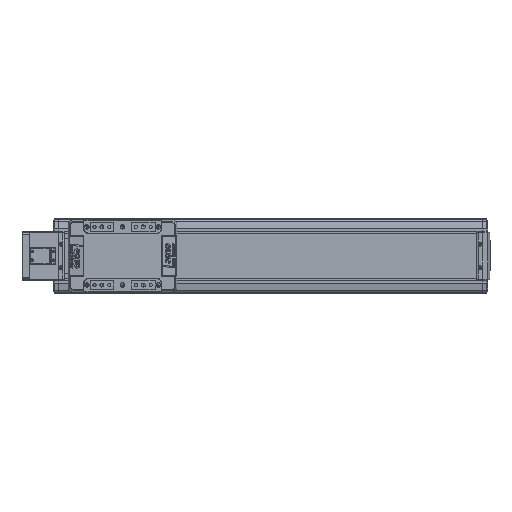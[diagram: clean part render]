
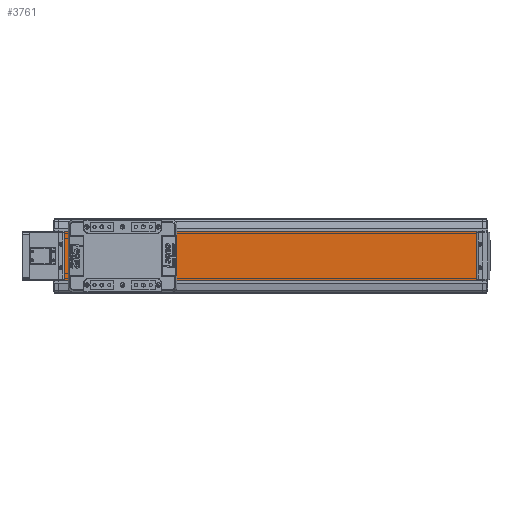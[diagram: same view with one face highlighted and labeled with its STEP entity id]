
A CAD part, top view. The second image highlights one B-rep face of the part: STEP entity #3761.
In plain terms, the highlighted planar face has unit normal (0, 0, 1).
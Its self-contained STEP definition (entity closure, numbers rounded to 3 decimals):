
#3761=ADVANCED_FACE('',(#9999),#10000,.F.);
#9999=FACE_OUTER_BOUND('',#19779,.T.);
#10000=PLANE('',#19780);
#19779=EDGE_LOOP('',(#31117,#31118,#31119,#31120));
#19780=AXIS2_PLACEMENT_3D('',#31121,#31122,#31123);
#31117=ORIENTED_EDGE('',*,*,#57344,.F.);
#31118=ORIENTED_EDGE('',*,*,#57345,.F.);
#31119=ORIENTED_EDGE('',*,*,#57346,.F.);
#31120=ORIENTED_EDGE('',*,*,#57347,.T.);
#31121=CARTESIAN_POINT('',(0.,0.,26.));
#31122=DIRECTION('',(0.,0.,-1.0));
#31123=DIRECTION('',(0.,1.0,0.));
#57344=EDGE_CURVE('',#68210,#68211,#68212,.T.);
#57345=EDGE_CURVE('',#68213,#68210,#68214,.T.);
#57346=EDGE_CURVE('',#68215,#68213,#68216,.T.);
#57347=EDGE_CURVE('',#68215,#68211,#68217,.T.);
#68210=VERTEX_POINT('',#83820);
#68211=VERTEX_POINT('',#83821);
#68212=LINE('',#83822,#83823);
#68213=VERTEX_POINT('',#83824);
#68214=LINE('',#83825,#83826);
#68215=VERTEX_POINT('',#83827);
#68216=LINE('',#83828,#83829);
#68217=LINE('',#83830,#83831);
#83820=CARTESIAN_POINT('',(860.0,50.,26.));
#83821=CARTESIAN_POINT('',(860.0,-50.,26.));
#83822=CARTESIAN_POINT('',(860.0,-50.,26.));
#83823=VECTOR('',#104806,10.0);
#83824=CARTESIAN_POINT('',(0.,50.,26.));
#83825=CARTESIAN_POINT('',(0.,50.,26.));
#83826=VECTOR('',#104807,10.0);
#83827=CARTESIAN_POINT('',(0.,-50.,26.));
#83828=CARTESIAN_POINT('',(0.,-50.,26.));
#83829=VECTOR('',#104808,10.0);
#83830=CARTESIAN_POINT('',(0.,-50.,26.));
#83831=VECTOR('',#104809,10.0);
#104806=DIRECTION('',(0.,-1.0,0.));
#104807=DIRECTION('',(1.0,0.,0.));
#104808=DIRECTION('',(0.,1.0,0.));
#104809=DIRECTION('',(1.0,0.,0.));
